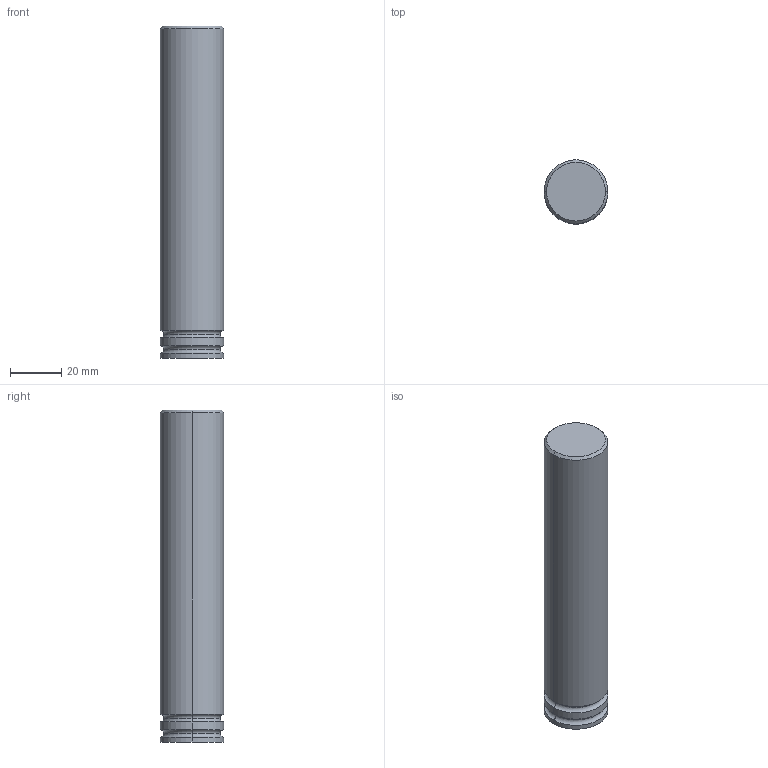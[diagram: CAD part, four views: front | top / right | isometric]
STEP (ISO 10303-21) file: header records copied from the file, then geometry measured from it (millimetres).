
FILE_DESCRIPTION (( 'STEP AP214' ), '1' );
FILE_NAME ('Haltestift Matritze.STEP', '2016-12-28T08:50:18', ( '' ), ( '' ), 'SwSTEP 2.0', 'SolidWorks 2016', '' );
FILE_SCHEMA (( 'AUTOMOTIVE_DESIGN' ));
Length unit declared in the file: millimetre
Products named in the file (1): Haltestift Matritze
Bounding box: 25 x 25 x 130 mm (x, y, z)
Volume: 63248.5 mm3; surface area: 11357 mm2
Topology: 1 solids, 1 shells, 18 faces, 34 edges, 18 vertices
Faces by surface type: torus 8, cylinder 6, cone 2, plane 2
Entity records: 486 total; most frequent: DIRECTION 98, CARTESIAN_POINT 71, ORIENTED_EDGE 68, AXIS2_PLACEMENT_3D 45, EDGE_CURVE 34, CIRCLE 26, VERTEX_POINT 18, FACE_OUTER_BOUND 18
